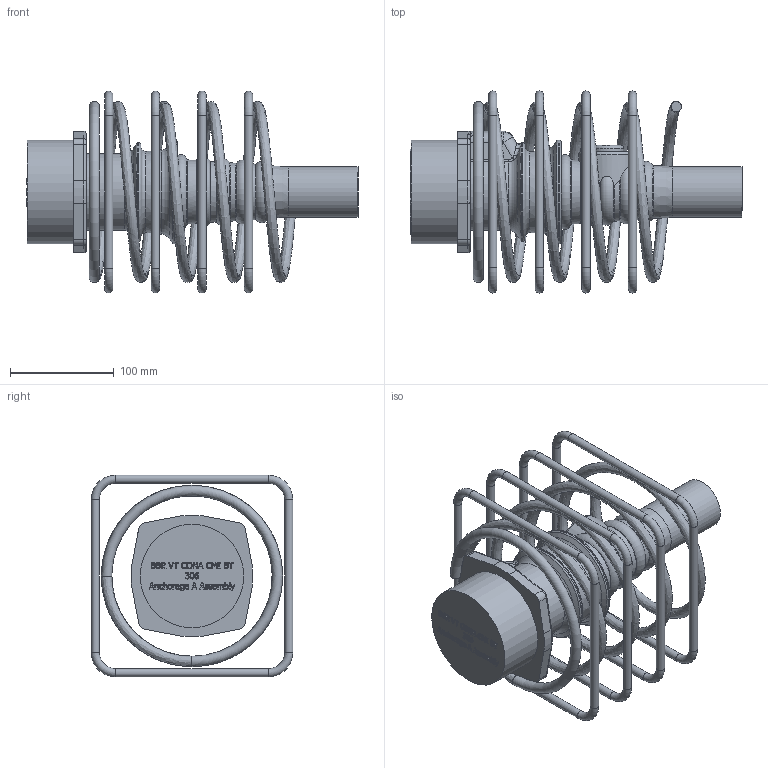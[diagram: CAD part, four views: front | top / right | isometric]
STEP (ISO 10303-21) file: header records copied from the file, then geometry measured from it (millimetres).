
FILE_DESCRIPTION(/* description */ (''),/* implementation_level */ '2;1');
FILE_NAME(/* name */ 'BBR VT CONA CMI BT 306_Anchorage A Assembly_CS-34,28.stp',/* time_stamp */ '2025-04-29T14:37:13+02:00',/* author */ ('tk'),/* organization */ (''),/* preprocessor_version */ 'ST-DEVELOPER v20',/* originating_system */ 'Autodesk Inventor 2024',/* authorisation */ '');
FILE_SCHEMA (('AUTOMOTIVE_DESIGN { 1 0 10303 214 3 1 1 }'));
Length unit declared in the file: millimetre
Products named in the file (1): BBR VT CONA CMI BT 306_Anchorage A Assembly_CS-34,28
Bounding box: 320.74 x 195 x 195 mm (x, y, z)
Volume: 1792539.5 mm3; surface area: 260367 mm2
Topology: 6 solids, 6 shells, 734 faces, 1984 edges, 1310 vertices
Faces by surface type: plane 324, bspline 306, torus 49, cylinder 46, cone 9
Full cylindrical faces by diameter (mm): 8 x16, 32 x1, 49 x1, 55 x1, 95 x1, 100 x2
Entity records: 28756 total; most frequent: CARTESIAN_POINT 11439, ORIENTED_EDGE 3964, DIRECTION 2424, EDGE_CURVE 1982, VERTEX_POINT 1310, LINE 1118, VECTOR 1118, EDGE_LOOP 792
